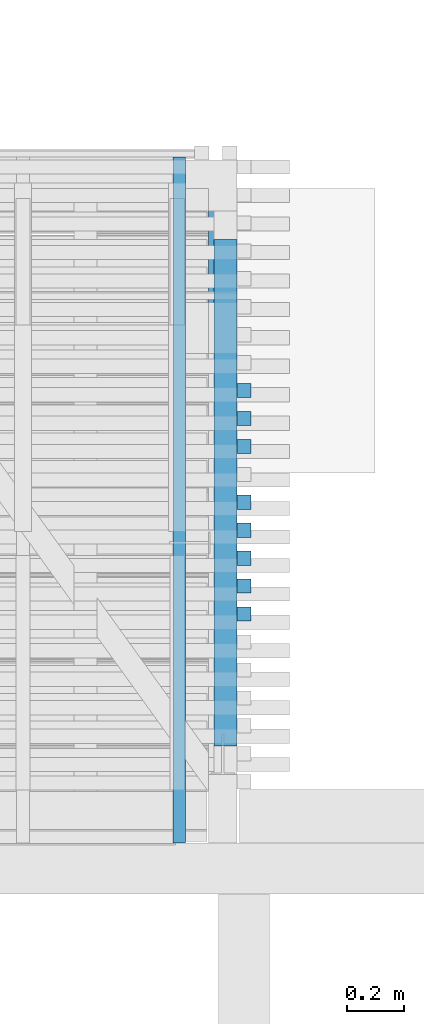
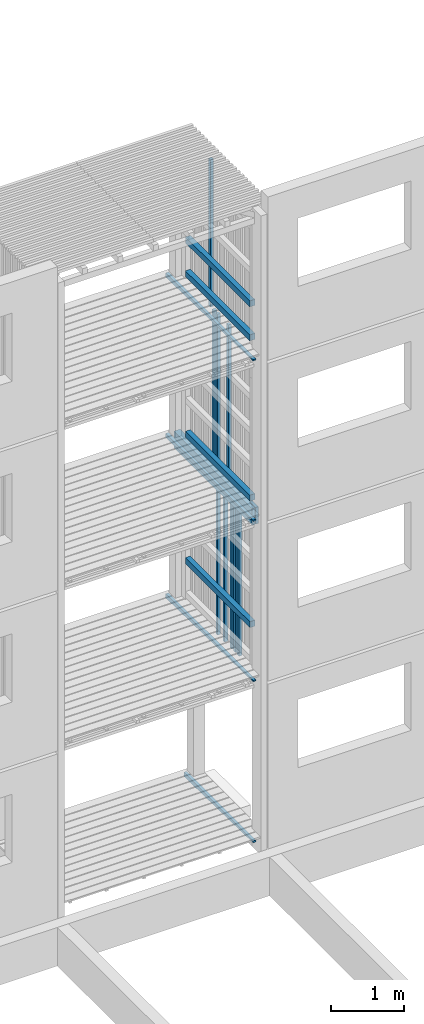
# One storey, part 105 of 182: 18 beams.
"""IFC2X3 building model written with IfcOpenShell, lengths in metres."""

from ifc_helpers import new_model, si_unit, frame, origin, place, context, project, spatial, faceted_brep, element, save


model = new_model("IFC2X3")

# Units and contexts
model_context = context("Model", 3, precision=1e-06, world=origin())
ifc_project = project(units=[si_unit("LENGTHUNIT", "METRE"), si_unit("PLANEANGLEUNIT", "RADIAN")], contexts=[model_context])

# Site, building, storey
site = spatial("IfcSite", under=ifc_project, CompositionType="ELEMENT")
building = spatial("IfcBuilding", under=site, CompositionType="ELEMENT")
storey = spatial("IfcBuildingStorey", under=building, Name="vs", CompositionType="ELEMENT", Elevation=-0.85)

# Beams
placement = place(None, origin())
beam_1_placement = place(placement, frame((46.14290135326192, 4.870077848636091, 2.684400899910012), z_axis=(0.0, 0.0, 1.0), x_axis=(0.0, 1.0, 0.0)))
element("IfcBeam", 1, at=beam_1_placement, inside=storey, Name="Calage", context=model_context, shape_type="Brep", body=[
    faceted_brep([(2.410000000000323, -0.022499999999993, -0.035599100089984), (0.0, -0.022499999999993, 0.012600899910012), (0.0, 0.022500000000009, 0.012600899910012), (2.410000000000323, 0.022500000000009, -0.035599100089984), (0.0, 0.022500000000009, 0.035599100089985), (0.0, 0.022500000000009, 0.012600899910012), (0.0, -0.022499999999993, 0.012600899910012), (0.0, -0.022499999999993, 0.035599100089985), (2.410000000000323, 0.022500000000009, -0.035599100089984), (0.0, 0.022500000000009, 0.012600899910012), (0.0, 0.022500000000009, 0.035599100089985), (2.410000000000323, 0.022500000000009, 0.035599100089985), (2.410000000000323, -0.022499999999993, 0.035599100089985), (0.0, -0.022499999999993, 0.035599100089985), (0.0, -0.022499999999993, 0.012600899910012), (2.410000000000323, -0.022499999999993, -0.035599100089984), (2.410000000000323, 0.022500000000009, 0.035599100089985), (0.0, 0.022500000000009, 0.035599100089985), (0.0, -0.022499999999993, 0.035599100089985), (2.410000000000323, -0.022499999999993, 0.035599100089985), (2.410000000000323, 0.022500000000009, -0.035599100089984), (2.410000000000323, 0.022500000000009, 0.035599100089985), (2.410000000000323, -0.022499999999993, 0.035599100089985), (2.410000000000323, -0.022499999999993, -0.035599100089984)], [[[0, 1, 2, 3]], [[4, 5, 6, 7]], [[8, 9, 10, 11]], [[12, 13, 14, 15]], [[16, 17, 18, 19]], [[20, 21, 22, 23]]]),
])
beam_2_placement = place(placement, frame((46.37040135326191, 6.263259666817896, 5.274999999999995), z_axis=(-1.0, 0.0, 0.0), x_axis=(0.0, 0.0, 1.0)))
element("IfcBeam", 2, at=beam_2_placement, inside=storey, Name="Bardage", context=model_context, shape_type="Brep", body=[
    faceted_brep([(1e-15, -0.024999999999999, 0.024999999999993), (1e-15, 0.024999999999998, 0.024999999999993), (1e-15, 0.024999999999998, -0.025000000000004), (1e-15, -0.024999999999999, -0.025000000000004), (2.699999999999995, -0.024999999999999, -0.025000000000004), (2.699999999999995, 0.024999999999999, -0.025000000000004), (2.699999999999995, 0.024999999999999, 0.024999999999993), (2.699999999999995, -0.024999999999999, 0.024999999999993), (1e-15, -0.024999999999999, 0.024999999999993), (1e-15, -0.024999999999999, -0.025000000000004), (2.699999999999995, -0.024999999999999, -0.025000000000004), (2.699999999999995, -0.024999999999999, 0.024999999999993), (2.699999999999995, -0.024999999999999, -0.025000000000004), (1e-15, -0.024999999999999, -0.025000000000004), (1e-15, 0.024999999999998, -0.025000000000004), (2.699999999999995, 0.024999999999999, -0.025000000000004), (2.699999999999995, 0.024999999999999, -0.025000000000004), (1e-15, 0.024999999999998, -0.025000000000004), (1e-15, 0.024999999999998, 0.024999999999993), (2.699999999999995, 0.024999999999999, 0.024999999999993), (2.699999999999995, 0.024999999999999, 0.024999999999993), (1e-15, 0.024999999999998, 0.024999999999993), (1e-15, -0.024999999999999, 0.024999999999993), (2.699999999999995, -0.024999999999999, 0.024999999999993)], [[[0, 1, 2, 3]], [[4, 5, 6, 7]], [[8, 9, 10, 11]], [[12, 13, 14, 15]], [[16, 17, 18, 19]], [[20, 21, 22, 23]]]),
])
beam_3_placement = place(placement, frame((46.30540135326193, 5.210077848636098, 5.529999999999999), z_axis=(0.0, 0.0, 1.0), x_axis=(0.0, 1.0, 0.0)))
element("IfcBeam", 3, at=beam_3_placement, inside=storey, Name="Support bardage", context=model_context, shape_type="Brep", body=[
    faceted_brep([(1.779999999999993, -0.039999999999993, 0.05), (1.779999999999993, -0.039999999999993, -0.050000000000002), (1.779999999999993, 0.04000000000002, -0.050000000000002), (1.779999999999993, 0.04000000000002, 0.05), (-4e-15, -0.039999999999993, -0.050000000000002), (1.779999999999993, -0.039999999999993, -0.050000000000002), (1.779999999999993, -0.039999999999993, 0.05), (-4e-15, -0.039999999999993, 0.05), (-4e-15, 0.04000000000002, -0.050000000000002), (1.779999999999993, 0.04000000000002, -0.050000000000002), (1.779999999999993, -0.039999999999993, -0.050000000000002), (-4e-15, -0.039999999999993, -0.050000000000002), (-4e-15, 0.04000000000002, 0.05), (1.779999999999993, 0.04000000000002, 0.05), (1.779999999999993, 0.04000000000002, -0.050000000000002), (-4e-15, 0.04000000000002, -0.050000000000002), (-4e-15, -0.039999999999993, 0.05), (1.779999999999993, -0.039999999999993, 0.05), (1.779999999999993, 0.04000000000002, 0.05), (-4e-15, 0.04000000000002, 0.05), (-4e-15, -0.039999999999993, -0.050000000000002), (-4e-15, -0.039999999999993, 0.05), (-4e-15, 0.04000000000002, 0.05), (-4e-15, 0.04000000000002, -0.050000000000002)], [[[0, 1, 2, 3]], [[4, 5, 6, 7]], [[8, 9, 10, 11]], [[12, 13, 14, 15]], [[16, 17, 18, 19]], [[20, 21, 22, 23]]]),
])
beam_4_placement = place(placement, frame((46.37040135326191, 6.263259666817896, 2.575000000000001), z_axis=(-1.0, 0.0, 0.0), x_axis=(0.0, 0.0, 1.0)))
element("IfcBeam", 4, at=beam_4_placement, inside=storey, Name="Bardage", context=model_context, shape_type="Brep", body=[
    faceted_brep([(0.0, -0.024999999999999, 0.024999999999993), (0.0, 0.024999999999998, 0.024999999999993), (0.0, 0.024999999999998, -0.025000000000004), (0.0, -0.024999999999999, -0.025000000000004), (2.699961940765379, 0.024999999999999, -0.025000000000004), (2.699961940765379, 0.024999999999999, 0.024999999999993), (2.699961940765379, -0.024999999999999, 0.024999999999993), (2.699961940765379, -0.024999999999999, -0.025000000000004), (0.0, -0.024999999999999, -0.025000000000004), (0.0, 0.024999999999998, -0.025000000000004), (2.699961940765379, 0.024999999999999, -0.025000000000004), (2.699961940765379, -0.024999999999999, -0.025000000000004), (2.699961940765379, 0.024999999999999, -0.025000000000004), (0.0, 0.024999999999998, -0.025000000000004), (0.0, 0.024999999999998, 0.024999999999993), (2.699961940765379, 0.024999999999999, 0.024999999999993), (2.699961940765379, 0.024999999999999, 0.024999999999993), (0.0, 0.024999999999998, 0.024999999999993), (0.0, -0.024999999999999, 0.024999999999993), (2.699961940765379, -0.024999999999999, 0.024999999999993), (2.699961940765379, -0.024999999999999, 0.024999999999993), (0.0, -0.024999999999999, 0.024999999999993), (0.0, -0.024999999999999, -0.025000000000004), (2.699961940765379, -0.024999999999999, -0.025000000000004)], [[[0, 1, 2, 3]], [[4, 5, 6, 7]], [[8, 9, 10, 11]], [[12, 13, 14, 15]], [[16, 17, 18, 19]], [[20, 21, 22, 23]]]),
])
beam_5_placement = place(placement, frame((46.14290135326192, 4.870077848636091, -0.015599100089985), z_axis=(0.0, 0.0, 1.0), x_axis=(0.0, 1.0, 0.0)))
element("IfcBeam", 5, at=beam_5_placement, inside=storey, Name="Calage", context=model_context, shape_type="Brep", body=[
    faceted_brep([(1.91000000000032, -0.022499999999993, -0.035599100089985), (0.0, -0.022499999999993, 0.002600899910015), (0.0, 0.022500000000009, 0.002600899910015), (1.91000000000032, 0.022500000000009, -0.035599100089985), (0.0, -0.022499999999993, 0.035599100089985), (0.0, 0.022500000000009, 0.035599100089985), (0.0, 0.022500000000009, 0.002600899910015), (0.0, -0.022499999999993, 0.002600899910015), (0.0, 0.022500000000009, 0.035599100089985), (0.0, -0.022499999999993, 0.035599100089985), (1.91000000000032, -0.022499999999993, 0.035599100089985), (1.91000000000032, 0.022500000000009, 0.035599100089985), (1.91000000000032, -0.022499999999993, 0.035599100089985), (0.0, -0.022499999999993, 0.035599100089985), (0.0, -0.022499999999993, 0.002600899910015), (1.91000000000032, -0.022499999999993, -0.035599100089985), (1.91000000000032, 0.022500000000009, 0.035599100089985), (1.91000000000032, -0.022499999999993, 0.035599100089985), (1.91000000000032, -0.022499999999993, -0.035599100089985), (1.91000000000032, 0.022500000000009, -0.035599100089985), (0.0, 0.022500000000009, 0.002600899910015), (0.0, 0.022500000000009, 0.035599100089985), (1.91000000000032, 0.022500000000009, 0.035599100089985), (1.91000000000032, 0.022500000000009, -0.035599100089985)], [[[0, 1, 2, 3]], [[4, 5, 6, 7]], [[8, 9, 10, 11]], [[12, 13, 14, 15]], [[16, 17, 18, 19]], [[20, 21, 22, 23]]]),
])
beam_6_placement = place(placement, frame((46.37040135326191, 6.459623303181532, 7.974999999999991), z_axis=(-1.0, 0.0, 0.0), x_axis=(0.0, 0.0, 1.0)))
element("IfcBeam", 6, at=beam_6_placement, inside=storey, Name="Bardage", context=model_context, shape_type="Brep", body=[
    faceted_brep([(2.479999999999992, -0.025000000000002, 0.024999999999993), (2.479999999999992, -0.025000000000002, -0.025000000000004), (2.479999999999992, 0.024999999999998, -0.025000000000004), (2.479999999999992, 0.024999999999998, 0.024999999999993), (0.0, 0.024999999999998, 0.024999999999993), (0.0, -0.025000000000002, 0.024999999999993), (2.479999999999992, -0.025000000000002, 0.024999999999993), (2.479999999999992, 0.024999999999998, 0.024999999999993), (0.0, -0.025000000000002, 0.024999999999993), (0.0, 0.024999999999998, 0.024999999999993), (0.0, 0.024999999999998, -0.025000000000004), (0.0, -0.025000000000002, -0.025000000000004), (0.0, 0.024999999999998, -0.025000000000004), (0.0, 0.024999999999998, 0.024999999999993), (2.479999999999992, 0.024999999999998, 0.024999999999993), (2.479999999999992, 0.024999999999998, -0.025000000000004), (0.0, -0.025000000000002, -0.025000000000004), (0.0, 0.024999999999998, -0.025000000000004), (2.479999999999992, 0.024999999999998, -0.025000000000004), (2.479999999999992, -0.025000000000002, -0.025000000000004), (2.479999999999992, -0.025000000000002, 0.024999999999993), (0.0, -0.025000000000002, 0.024999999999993), (0.0, -0.025000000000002, -0.025000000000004), (2.479999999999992, -0.025000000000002, -0.025000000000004)], [[[0, 1, 2, 3]], [[4, 5, 6, 7]], [[8, 9, 10, 11]], [[12, 13, 14, 15]], [[16, 17, 18, 19]], [[20, 21, 22, 23]]]),
])
beam_7_placement = place(placement, frame((46.30540135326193, 5.210077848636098, 8.229999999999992), z_axis=(0.0, 0.0, 1.0), x_axis=(0.0, 1.0, 0.0)))
element("IfcBeam", 7, at=beam_7_placement, inside=storey, Name="Support bardage", context=model_context, shape_type="Brep", body=[
    faceted_brep([(1.779999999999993, -0.039999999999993, 0.050000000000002), (1.779999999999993, -0.039999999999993, -0.05), (1.779999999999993, 0.04000000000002, -0.05), (1.779999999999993, 0.04000000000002, 0.050000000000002), (-4e-15, -0.039999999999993, -0.05), (1.779999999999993, -0.039999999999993, -0.05), (1.779999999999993, -0.039999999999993, 0.050000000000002), (-4e-15, -0.039999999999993, 0.050000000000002), (-4e-15, 0.04000000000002, -0.05), (1.779999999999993, 0.04000000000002, -0.05), (1.779999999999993, -0.039999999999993, -0.05), (-4e-15, -0.039999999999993, -0.05), (-4e-15, 0.04000000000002, 0.050000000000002), (1.779999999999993, 0.04000000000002, 0.050000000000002), (1.779999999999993, 0.04000000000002, -0.05), (-4e-15, 0.04000000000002, -0.05), (-4e-15, -0.039999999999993, 0.050000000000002), (1.779999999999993, -0.039999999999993, 0.050000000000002), (1.779999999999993, 0.04000000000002, 0.050000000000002), (-4e-15, 0.04000000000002, 0.050000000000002), (-4e-15, -0.039999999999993, -0.05), (-4e-15, -0.039999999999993, 0.050000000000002), (-4e-15, 0.04000000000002, 0.050000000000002), (-4e-15, 0.04000000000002, -0.05)], [[[0, 1, 2, 3]], [[4, 5, 6, 7]], [[8, 9, 10, 11]], [[12, 13, 14, 15]], [[16, 17, 18, 19]], [[20, 21, 22, 23]]]),
])
beam_8_placement = place(placement, frame((46.37040135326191, 6.361441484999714, 5.274999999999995), z_axis=(-1.0, 0.0, 0.0), x_axis=(0.0, 0.0, 1.0)))
element("IfcBeam", 8, at=beam_8_placement, inside=storey, Name="Bardage", context=model_context, shape_type="Brep", body=[
    faceted_brep([(1e-15, -0.025000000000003, 0.024999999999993), (1e-15, 0.024999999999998, 0.024999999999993), (1e-15, 0.024999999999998, -0.025000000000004), (1e-15, -0.025000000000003, -0.025000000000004), (2.699999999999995, -0.025000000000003, -0.025000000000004), (2.699999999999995, 0.024999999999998, -0.025000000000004), (2.699999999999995, 0.024999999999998, 0.024999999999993), (2.699999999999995, -0.025000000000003, 0.024999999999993), (1e-15, -0.025000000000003, 0.024999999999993), (1e-15, -0.025000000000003, -0.025000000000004), (2.699999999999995, -0.025000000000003, -0.025000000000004), (2.699999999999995, -0.025000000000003, 0.024999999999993), (2.699999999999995, -0.025000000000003, -0.025000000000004), (1e-15, -0.025000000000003, -0.025000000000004), (1e-15, 0.024999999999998, -0.025000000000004), (2.699999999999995, 0.024999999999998, -0.025000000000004), (2.699999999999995, 0.024999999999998, -0.025000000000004), (1e-15, 0.024999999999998, -0.025000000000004), (1e-15, 0.024999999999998, 0.024999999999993), (2.699999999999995, 0.024999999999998, 0.024999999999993), (2.699999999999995, 0.024999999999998, 0.024999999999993), (1e-15, 0.024999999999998, 0.024999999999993), (1e-15, -0.025000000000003, 0.024999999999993), (2.699999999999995, -0.025000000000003, 0.024999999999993)], [[[0, 1, 2, 3]], [[4, 5, 6, 7]], [[8, 9, 10, 11]], [[12, 13, 14, 15]], [[16, 17, 18, 19]], [[20, 21, 22, 23]]]),
])
beam_9_placement = place(placement, frame((46.37040135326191, 5.772350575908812, 2.575000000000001), z_axis=(-1.0, 0.0, 0.0), x_axis=(0.0, 0.0, 1.0)))
element("IfcBeam", 9, at=beam_9_placement, inside=storey, Name="Bardage", context=model_context, shape_type="Brep", body=[
    faceted_brep([(0.0, -0.024999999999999, 0.024999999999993), (0.0, 0.024999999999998, 0.024999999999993), (0.0, 0.024999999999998, -0.025000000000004), (0.0, -0.024999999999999, -0.025000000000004), (2.699961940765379, 0.025000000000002, -0.025000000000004), (2.699961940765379, 0.025000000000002, 0.024999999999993), (2.699961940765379, -0.024999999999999, 0.024999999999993), (2.699961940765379, -0.024999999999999, -0.025000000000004), (0.0, -0.024999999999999, -0.025000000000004), (0.0, 0.024999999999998, -0.025000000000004), (2.699961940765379, 0.025000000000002, -0.025000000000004), (2.699961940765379, -0.024999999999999, -0.025000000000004), (2.699961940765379, 0.025000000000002, -0.025000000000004), (0.0, 0.024999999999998, -0.025000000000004), (0.0, 0.024999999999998, 0.024999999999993), (2.699961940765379, 0.025000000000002, 0.024999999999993), (2.699961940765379, 0.025000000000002, 0.024999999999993), (0.0, 0.024999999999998, 0.024999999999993), (0.0, -0.024999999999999, 0.024999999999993), (2.699961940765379, -0.024999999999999, 0.024999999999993), (2.699961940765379, -0.024999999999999, 0.024999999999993), (0.0, -0.024999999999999, 0.024999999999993), (0.0, -0.024999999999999, -0.025000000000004), (2.699961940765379, -0.024999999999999, -0.025000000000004)], [[[0, 1, 2, 3]], [[4, 5, 6, 7]], [[8, 9, 10, 11]], [[12, 13, 14, 15]], [[16, 17, 18, 19]], [[20, 21, 22, 23]]]),
])
beam_10_placement = place(placement, frame((46.30540135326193, 5.210077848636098, 3.401250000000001), z_axis=(0.0, 0.0, 1.0), x_axis=(0.0, 1.0, 0.0)))
element("IfcBeam", 10, at=beam_10_placement, inside=storey, Name="Support bardage", context=model_context, shape_type="Brep", body=[
    faceted_brep([(1.779999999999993, -0.039999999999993, 0.05), (1.779999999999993, -0.039999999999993, -0.050000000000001), (1.779999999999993, 0.04000000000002, -0.050000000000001), (1.779999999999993, 0.04000000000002, 0.05), (-4e-15, -0.039999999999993, -0.050000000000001), (1.779999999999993, -0.039999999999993, -0.050000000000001), (1.779999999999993, -0.039999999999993, 0.05), (-4e-15, -0.039999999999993, 0.05), (-4e-15, 0.04000000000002, -0.050000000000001), (1.779999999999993, 0.04000000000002, -0.050000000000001), (1.779999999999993, -0.039999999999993, -0.050000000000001), (-4e-15, -0.039999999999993, -0.050000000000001), (-4e-15, 0.04000000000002, 0.05), (1.779999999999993, 0.04000000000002, 0.05), (1.779999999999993, 0.04000000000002, -0.050000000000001), (-4e-15, 0.04000000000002, -0.050000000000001), (-4e-15, -0.039999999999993, 0.05), (1.779999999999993, -0.039999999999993, 0.05), (1.779999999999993, 0.04000000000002, 0.05), (-4e-15, 0.04000000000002, 0.05), (-4e-15, -0.039999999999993, -0.050000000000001), (-4e-15, -0.039999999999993, 0.05), (-4e-15, 0.04000000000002, 0.05), (-4e-15, 0.04000000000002, -0.050000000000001)], [[[0, 1, 2, 3]], [[4, 5, 6, 7]], [[8, 9, 10, 11]], [[12, 13, 14, 15]], [[16, 17, 18, 19]], [[20, 21, 22, 23]]]),
])
beam_11_placement = place(placement, frame((46.37040135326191, 5.870532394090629, 2.575000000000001), z_axis=(-1.0, 0.0, 0.0), x_axis=(0.0, 0.0, 1.0)))
element("IfcBeam", 11, at=beam_11_placement, inside=storey, Name="Bardage", context=model_context, shape_type="Brep", body=[
    faceted_brep([(0.0, -0.025000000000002, 0.024999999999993), (0.0, 0.025000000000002, 0.024999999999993), (0.0, 0.025000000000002, -0.025000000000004), (0.0, -0.025000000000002, -0.025000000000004), (2.699961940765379, 0.025000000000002, -0.025000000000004), (2.699961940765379, 0.025000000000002, 0.024999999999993), (2.699961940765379, -0.025000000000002, 0.024999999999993), (2.699961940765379, -0.025000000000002, -0.025000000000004), (0.0, -0.025000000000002, -0.025000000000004), (0.0, 0.025000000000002, -0.025000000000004), (2.699961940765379, 0.025000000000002, -0.025000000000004), (2.699961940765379, -0.025000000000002, -0.025000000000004), (2.699961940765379, 0.025000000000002, -0.025000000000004), (0.0, 0.025000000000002, -0.025000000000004), (0.0, 0.025000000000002, 0.024999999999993), (2.699961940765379, 0.025000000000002, 0.024999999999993), (2.699961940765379, 0.025000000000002, 0.024999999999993), (0.0, 0.025000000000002, 0.024999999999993), (0.0, -0.025000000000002, 0.024999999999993), (2.699961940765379, -0.025000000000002, 0.024999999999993), (2.699961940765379, -0.025000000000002, 0.024999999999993), (0.0, -0.025000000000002, 0.024999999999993), (0.0, -0.025000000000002, -0.025000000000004), (2.699961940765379, -0.025000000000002, -0.025000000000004)], [[[0, 1, 2, 3]], [[4, 5, 6, 7]], [[8, 9, 10, 11]], [[12, 13, 14, 15]], [[16, 17, 18, 19]], [[20, 21, 22, 23]]]),
])
beam_12_placement = place(placement, frame((46.14290135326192, 4.870077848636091, 5.384400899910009), z_axis=(0.0, 0.0, 1.0), x_axis=(0.0, 1.0, 0.0)))
element("IfcBeam", 12, at=beam_12_placement, inside=storey, Name="Calage", context=model_context, shape_type="Brep", body=[
    faceted_brep([(2.410000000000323, -0.022499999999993, -0.035599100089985), (0.0, -0.022499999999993, 0.012600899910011), (0.0, 0.022500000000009, 0.012600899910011), (2.410000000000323, 0.022500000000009, -0.035599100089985), (0.0, 0.022500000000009, 0.035599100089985), (0.0, 0.022500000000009, 0.012600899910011), (0.0, -0.022499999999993, 0.012600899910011), (0.0, -0.022499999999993, 0.035599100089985), (2.410000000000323, 0.022500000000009, -0.035599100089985), (0.0, 0.022500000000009, 0.012600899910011), (0.0, 0.022500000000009, 0.035599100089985), (2.410000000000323, 0.022500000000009, 0.035599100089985), (2.410000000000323, -0.022499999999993, 0.035599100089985), (0.0, -0.022499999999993, 0.035599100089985), (0.0, -0.022499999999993, 0.012600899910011), (2.410000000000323, -0.022499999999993, -0.035599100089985), (2.410000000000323, 0.022500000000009, 0.035599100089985), (0.0, 0.022500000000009, 0.035599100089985), (0.0, -0.022499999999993, 0.035599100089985), (2.410000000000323, -0.022499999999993, 0.035599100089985), (2.410000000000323, 0.022500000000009, -0.035599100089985), (2.410000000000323, 0.022500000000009, 0.035599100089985), (2.410000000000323, -0.022499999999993, 0.035599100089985), (2.410000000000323, -0.022499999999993, -0.035599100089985)], [[[0, 1, 2, 3]], [[4, 5, 6, 7]], [[8, 9, 10, 11]], [[12, 13, 14, 15]], [[16, 17, 18, 19]], [[20, 21, 22, 23]]]),
])
beam_13_placement = place(placement, frame((46.14290135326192, 4.870077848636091, 8.084400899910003), z_axis=(0.0, 0.0, 1.0), x_axis=(0.0, 1.0, 0.0)))
element("IfcBeam", 13, at=beam_13_placement, inside=storey, Name="Calage", context=model_context, shape_type="Brep", body=[
    faceted_brep([(2.410000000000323, -0.022499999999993, -0.035599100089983), (0.0, -0.022499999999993, 0.012600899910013), (0.0, 0.022500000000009, 0.012600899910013), (2.410000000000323, 0.022500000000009, -0.035599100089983), (0.0, 0.022500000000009, 0.035599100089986), (0.0, 0.022500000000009, 0.012600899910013), (0.0, -0.022499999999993, 0.012600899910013), (0.0, -0.022499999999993, 0.035599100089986), (2.410000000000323, 0.022500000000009, -0.035599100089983), (0.0, 0.022500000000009, 0.012600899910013), (0.0, 0.022500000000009, 0.035599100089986), (2.410000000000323, 0.022500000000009, 0.035599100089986), (2.410000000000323, -0.022499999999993, 0.035599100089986), (0.0, -0.022499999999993, 0.035599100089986), (0.0, -0.022499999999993, 0.012600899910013), (2.410000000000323, -0.022499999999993, -0.035599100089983), (2.410000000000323, 0.022500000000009, 0.035599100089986), (0.0, 0.022500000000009, 0.035599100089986), (0.0, -0.022499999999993, 0.035599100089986), (2.410000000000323, -0.022499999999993, 0.035599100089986), (2.410000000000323, 0.022500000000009, -0.035599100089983), (2.410000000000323, 0.022500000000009, 0.035599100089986), (2.410000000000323, -0.022499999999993, 0.035599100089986), (2.410000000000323, -0.022499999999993, -0.035599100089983)], [[[0, 1, 2, 3]], [[4, 5, 6, 7]], [[8, 9, 10, 11]], [[12, 13, 14, 15]], [[16, 17, 18, 19]], [[20, 21, 22, 23]]]),
])
beam_14_placement = place(placement, frame((46.37040135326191, 6.066896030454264, 2.575000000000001), z_axis=(-1.0, 0.0, 0.0), x_axis=(0.0, 0.0, 1.0)))
element("IfcBeam", 14, at=beam_14_placement, inside=storey, Name="Bardage", context=model_context, shape_type="Brep", body=[
    faceted_brep([(0.0, -0.025000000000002, 0.024999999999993), (0.0, 0.024999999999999, 0.024999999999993), (0.0, 0.024999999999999, -0.025000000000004), (0.0, -0.025000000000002, -0.025000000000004), (2.699961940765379, 0.024999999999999, -0.025000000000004), (2.699961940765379, 0.024999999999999, 0.024999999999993), (2.699961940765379, -0.025000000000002, 0.024999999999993), (2.699961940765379, -0.025000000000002, -0.025000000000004), (0.0, -0.025000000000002, -0.025000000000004), (0.0, 0.024999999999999, -0.025000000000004), (2.699961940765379, 0.024999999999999, -0.025000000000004), (2.699961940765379, -0.025000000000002, -0.025000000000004), (2.699961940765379, 0.024999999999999, -0.025000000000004), (0.0, 0.024999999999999, -0.025000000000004), (0.0, 0.024999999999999, 0.024999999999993), (2.699961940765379, 0.024999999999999, 0.024999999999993), (2.699961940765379, 0.024999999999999, 0.024999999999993), (0.0, 0.024999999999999, 0.024999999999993), (0.0, -0.025000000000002, 0.024999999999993), (2.699961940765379, -0.025000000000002, 0.024999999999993), (2.699961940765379, -0.025000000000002, 0.024999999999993), (0.0, -0.025000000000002, 0.024999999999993), (0.0, -0.025000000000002, -0.025000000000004), (2.699961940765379, -0.025000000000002, -0.025000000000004)], [[[0, 1, 2, 3]], [[4, 5, 6, 7]], [[8, 9, 10, 11]], [[12, 13, 14, 15]], [[16, 17, 18, 19]], [[20, 21, 22, 23]]]),
])
beam_15_placement = place(placement, frame((46.30540135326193, 5.210077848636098, 8.80124999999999), z_axis=(0.0, 0.0, 1.0), x_axis=(0.0, 1.0, 0.0)))
element("IfcBeam", 15, at=beam_15_placement, inside=storey, Name="Support bardage", context=model_context, shape_type="Brep", body=[
    faceted_brep([(1.779999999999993, -0.039999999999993, 0.050000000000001), (1.779999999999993, -0.039999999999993, -0.050000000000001), (1.779999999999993, 0.04000000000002, -0.050000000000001), (1.779999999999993, 0.04000000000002, 0.050000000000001), (-4e-15, -0.039999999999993, -0.050000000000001), (1.779999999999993, -0.039999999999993, -0.050000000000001), (1.779999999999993, -0.039999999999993, 0.050000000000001), (-4e-15, -0.039999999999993, 0.050000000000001), (-4e-15, 0.04000000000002, -0.050000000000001), (1.779999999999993, 0.04000000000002, -0.050000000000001), (1.779999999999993, -0.039999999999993, -0.050000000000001), (-4e-15, -0.039999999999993, -0.050000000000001), (-4e-15, 0.04000000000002, 0.050000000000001), (1.779999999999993, 0.04000000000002, 0.050000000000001), (1.779999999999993, 0.04000000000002, -0.050000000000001), (-4e-15, 0.04000000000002, -0.050000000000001), (-4e-15, -0.039999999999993, 0.050000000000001), (1.779999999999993, -0.039999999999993, 0.050000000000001), (1.779999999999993, 0.04000000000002, 0.050000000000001), (-4e-15, 0.04000000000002, 0.050000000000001), (-4e-15, -0.039999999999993, -0.050000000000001), (-4e-15, -0.039999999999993, 0.050000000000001), (-4e-15, 0.04000000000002, 0.050000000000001), (-4e-15, 0.04000000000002, -0.050000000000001)], [[[0, 1, 2, 3]], [[4, 5, 6, 7]], [[8, 9, 10, 11]], [[12, 13, 14, 15]], [[16, 17, 18, 19]], [[20, 21, 22, 23]]]),
])
beam_16_placement = place(placement, frame((46.2954013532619, 5.115077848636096, 5.279999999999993), z_axis=(0.0, 0.0, 1.0), x_axis=(0.0, 1.0, 0.0)))
element("IfcBeam", 16, at=beam_16_placement, inside=storey, Name="Sommier", context=model_context, shape_type="Brep", body=[
    faceted_brep([(2.154999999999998, -0.050000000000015, -0.140000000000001), (2.154999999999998, -0.050000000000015, 0.140000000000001), (0.0, -0.050000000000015, 0.140000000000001), (0.0, -0.050000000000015, -0.140000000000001), (-4e-15, -0.004000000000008, 0.140000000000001), (0.0, -0.050000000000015, 0.140000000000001), (2.154999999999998, -0.050000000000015, 0.140000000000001), (2.154999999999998, 0.049999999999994, 0.140000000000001), (0.0, 0.049999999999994, 0.140000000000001), (-4e-15, 0.003999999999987, 0.140000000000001), (0.136999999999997, 0.003999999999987, 0.140000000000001), (0.136999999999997, -0.004000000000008, 0.140000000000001), (2.154999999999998, 0.049999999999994, 0.140000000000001), (2.154999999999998, -0.050000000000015, 0.140000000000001), (2.154999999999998, -0.050000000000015, -0.140000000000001), (2.154999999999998, 0.049999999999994, -0.140000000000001), (0.847999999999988, 0.044999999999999, -0.140000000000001), (0.771999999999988, 0.044999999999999, -0.140000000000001), (0.771999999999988, 0.044999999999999, 0.034999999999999), (0.847999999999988, 0.044999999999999, 0.034999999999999), (0.847999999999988, 0.044999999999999, 0.034999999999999), (0.771999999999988, 0.044999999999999, 0.034999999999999), (0.771999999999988, 0.049999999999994, 0.034999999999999), (0.847999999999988, 0.049999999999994, 0.034999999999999), (0.847999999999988, 0.049999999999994, -0.140000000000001), (0.847999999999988, 0.044999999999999, -0.140000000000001), (0.847999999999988, 0.044999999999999, 0.034999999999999), (0.847999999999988, 0.049999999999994, 0.034999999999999), (0.771999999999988, 0.044999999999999, 0.034999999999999), (0.771999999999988, 0.044999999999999, -0.140000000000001), (0.771999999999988, 0.049999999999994, -0.140000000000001), (0.771999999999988, 0.049999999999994, 0.034999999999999), (0.0, 0.049999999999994, 0.140000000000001), (2.154999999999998, 0.049999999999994, 0.140000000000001), (2.154999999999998, 0.049999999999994, -0.140000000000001), (0.847999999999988, 0.049999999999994, -0.140000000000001), (0.847999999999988, 0.049999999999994, 0.034999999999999), (0.771999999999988, 0.049999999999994, 0.034999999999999), (0.771999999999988, 0.049999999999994, -0.140000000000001), (0.0, 0.049999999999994, -0.140000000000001), (0.0, 0.003999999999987, -0.140000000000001), (-4e-15, 0.003999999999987, 0.140000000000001), (0.0, 0.049999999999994, 0.140000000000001), (0.0, 0.049999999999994, -0.140000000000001), (0.0, -0.050000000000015, 0.140000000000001), (-4e-15, -0.004000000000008, 0.140000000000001), (0.0, -0.004000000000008, -0.140000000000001), (0.0, -0.050000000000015, -0.140000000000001), (0.0, 0.049999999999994, -0.140000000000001), (0.771999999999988, 0.049999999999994, -0.140000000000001), (0.771999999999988, 0.044999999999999, -0.140000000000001), (0.847999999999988, 0.044999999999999, -0.140000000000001), (0.847999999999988, 0.049999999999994, -0.140000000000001), (2.154999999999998, 0.049999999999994, -0.140000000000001), (2.154999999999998, -0.050000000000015, -0.140000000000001), (0.0, -0.050000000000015, -0.140000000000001), (0.0, -0.004000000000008, -0.140000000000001), (0.136999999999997, -0.004000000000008, -0.140000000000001), (0.136999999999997, 0.003999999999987, -0.140000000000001), (0.0, 0.003999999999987, -0.140000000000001), (0.136999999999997, 0.003999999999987, -0.140000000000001), (0.136999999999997, -0.004000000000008, -0.140000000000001), (0.136999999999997, -0.004000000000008, 0.140000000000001), (0.136999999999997, 0.003999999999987, 0.140000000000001), (-4e-15, -0.004000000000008, 0.140000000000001), (0.136999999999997, -0.004000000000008, 0.140000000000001), (0.136999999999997, -0.004000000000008, -0.140000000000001), (0.0, -0.004000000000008, -0.140000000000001), (0.136999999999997, 0.003999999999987, 0.140000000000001), (-4e-15, 0.003999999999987, 0.140000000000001), (0.0, 0.003999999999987, -0.140000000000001), (0.136999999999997, 0.003999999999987, -0.140000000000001)], [[[0, 1, 2, 3]], [[4, 5, 6, 7, 8, 9, 10, 11]], [[12, 13, 14, 15]], [[16, 17, 18, 19]], [[20, 21, 22, 23]], [[24, 25, 26, 27]], [[28, 29, 30, 31]], [[32, 33, 34, 35, 36, 37, 38, 39]], [[40, 41, 42, 43]], [[44, 45, 46, 47]], [[48, 49, 50, 51, 52, 53, 54, 55, 56, 57, 58, 59]], [[60, 61, 62, 63]], [[64, 65, 66, 67]], [[68, 69, 70, 71]]]),
])
beam_17_placement = place(placement, frame((46.37040135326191, 5.674168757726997, 2.575000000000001), z_axis=(-1.0, 0.0, 0.0), x_axis=(0.0, 0.0, 1.0)))
element("IfcBeam", 17, at=beam_17_placement, inside=storey, Name="Bardage", context=model_context, shape_type="Brep", body=[
    faceted_brep([(0.0, -0.025000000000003, 0.024999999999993), (0.0, 0.024999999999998, 0.024999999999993), (0.0, 0.024999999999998, -0.025000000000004), (0.0, -0.025000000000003, -0.025000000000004), (2.699961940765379, 0.024999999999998, -0.025000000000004), (2.699961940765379, 0.024999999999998, 0.024999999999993), (2.699961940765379, -0.025000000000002, 0.024999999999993), (2.699961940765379, -0.025000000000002, -0.025000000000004), (0.0, -0.025000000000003, -0.025000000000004), (0.0, 0.024999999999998, -0.025000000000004), (2.699961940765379, 0.024999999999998, -0.025000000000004), (2.699961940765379, -0.025000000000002, -0.025000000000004), (2.699961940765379, 0.024999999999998, -0.025000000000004), (0.0, 0.024999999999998, -0.025000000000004), (0.0, 0.024999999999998, 0.024999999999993), (2.699961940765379, 0.024999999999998, 0.024999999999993), (2.699961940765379, 0.024999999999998, 0.024999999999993), (0.0, 0.024999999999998, 0.024999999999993), (0.0, -0.025000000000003, 0.024999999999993), (2.699961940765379, -0.025000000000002, 0.024999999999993), (2.699961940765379, -0.025000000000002, 0.024999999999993), (0.0, -0.025000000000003, 0.024999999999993), (0.0, -0.025000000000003, -0.025000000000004), (2.699961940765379, -0.025000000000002, -0.025000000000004)], [[[0, 1, 2, 3]], [[4, 5, 6, 7]], [[8, 9, 10, 11]], [[12, 13, 14, 15]], [[16, 17, 18, 19]], [[20, 21, 22, 23]]]),
])
beam_18_placement = place(placement, frame((46.37040135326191, 5.968714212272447, 5.274999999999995), z_axis=(-1.0, 0.0, 0.0), x_axis=(0.0, 0.0, 1.0)))
element("IfcBeam", 18, at=beam_18_placement, inside=storey, Name="Bardage", context=model_context, shape_type="Brep", body=[
    faceted_brep([(1e-15, -0.024999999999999, 0.024999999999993), (1e-15, 0.024999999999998, 0.024999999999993), (1e-15, 0.024999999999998, -0.025000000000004), (1e-15, -0.024999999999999, -0.025000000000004), (2.699999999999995, -0.024999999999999, -0.025000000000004), (2.699999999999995, 0.024999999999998, -0.025000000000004), (2.699999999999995, 0.024999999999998, 0.024999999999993), (2.699999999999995, -0.024999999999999, 0.024999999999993), (1e-15, -0.024999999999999, 0.024999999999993), (1e-15, -0.024999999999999, -0.025000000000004), (2.699999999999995, -0.024999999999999, -0.025000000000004), (2.699999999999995, -0.024999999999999, 0.024999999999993), (2.699999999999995, -0.024999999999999, -0.025000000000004), (1e-15, -0.024999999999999, -0.025000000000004), (1e-15, 0.024999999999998, -0.025000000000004), (2.699999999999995, 0.024999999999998, -0.025000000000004), (2.699999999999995, 0.024999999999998, -0.025000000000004), (1e-15, 0.024999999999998, -0.025000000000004), (1e-15, 0.024999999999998, 0.024999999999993), (2.699999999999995, 0.024999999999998, 0.024999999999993), (2.699999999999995, 0.024999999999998, 0.024999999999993), (1e-15, 0.024999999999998, 0.024999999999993), (1e-15, -0.024999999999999, 0.024999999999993), (2.699999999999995, -0.024999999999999, 0.024999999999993)], [[[0, 1, 2, 3]], [[4, 5, 6, 7]], [[8, 9, 10, 11]], [[12, 13, 14, 15]], [[16, 17, 18, 19]], [[20, 21, 22, 23]]]),
])

save(model, "model.ifc")
